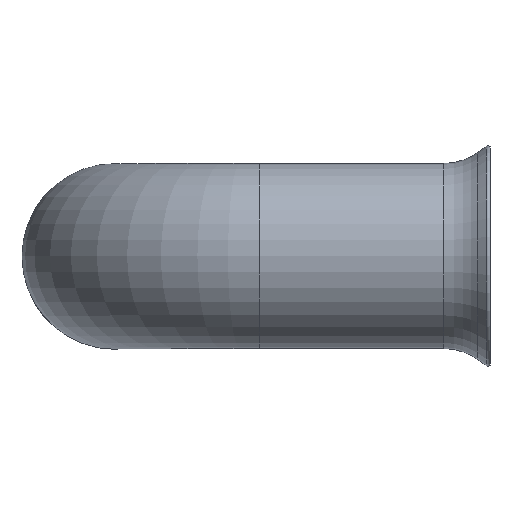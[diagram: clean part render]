
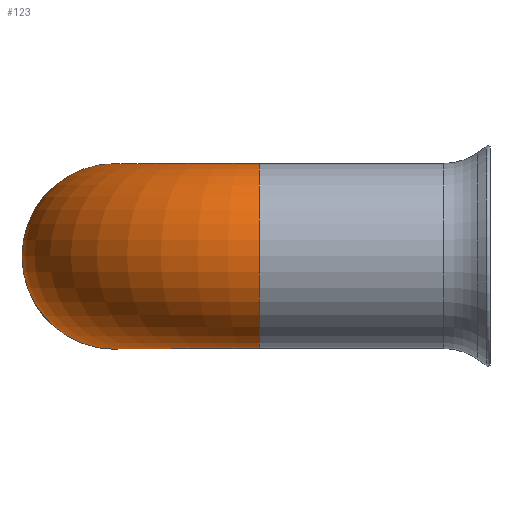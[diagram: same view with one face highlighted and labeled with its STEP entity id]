
A CAD part, top view. The second image highlights one B-rep face of the part: STEP entity #123.
In plain terms, the highlighted toroidal (fillet/blend) face has major radius 50 mm and minor radius 32 mm.
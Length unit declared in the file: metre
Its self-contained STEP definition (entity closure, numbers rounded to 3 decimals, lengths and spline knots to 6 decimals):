
#14=TOROIDAL_SURFACE('',#149,0.05,0.032);
#21=ORIENTED_EDGE('',*,*,#42,.F.);
#22=ORIENTED_EDGE('',*,*,#43,.T.);
#42=EDGE_CURVE('',#53,#53,#64,.T.);
#43=EDGE_CURVE('',#54,#54,#65,.T.);
#53=VERTEX_POINT('',#219);
#54=VERTEX_POINT('',#222);
#64=CIRCLE('',#148,0.032);
#65=CIRCLE('',#150,0.032);
#76=EDGE_LOOP('',(#21));
#77=EDGE_LOOP('',(#22));
#98=FACE_BOUND('',#76,.T.);
#99=FACE_BOUND('',#77,.T.);
#123=ADVANCED_FACE('',(#98,#99),#14,.T.);
#148=AXIS2_PLACEMENT_3D('',#218,#174,#175);
#149=AXIS2_PLACEMENT_3D('',#220,#176,#177);
#150=AXIS2_PLACEMENT_3D('',#221,#178,#179);
#174=DIRECTION('',(1.,0.,0.));
#175=DIRECTION('',(0.,0.,-1.));
#176=DIRECTION('',(0.,1.,0.));
#177=DIRECTION('',(0.,0.,1.));
#178=DIRECTION('',(0.,0.,1.));
#179=DIRECTION('',(1.,0.,0.));
#218=CARTESIAN_POINT('',(0.05,0.,0.14));
#219=CARTESIAN_POINT('',(0.05,0.,0.108));
#220=CARTESIAN_POINT('',(0.05,0.,0.09));
#221=CARTESIAN_POINT('',(0.,0.,0.09));
#222=CARTESIAN_POINT('',(0.032,0.,0.09));
